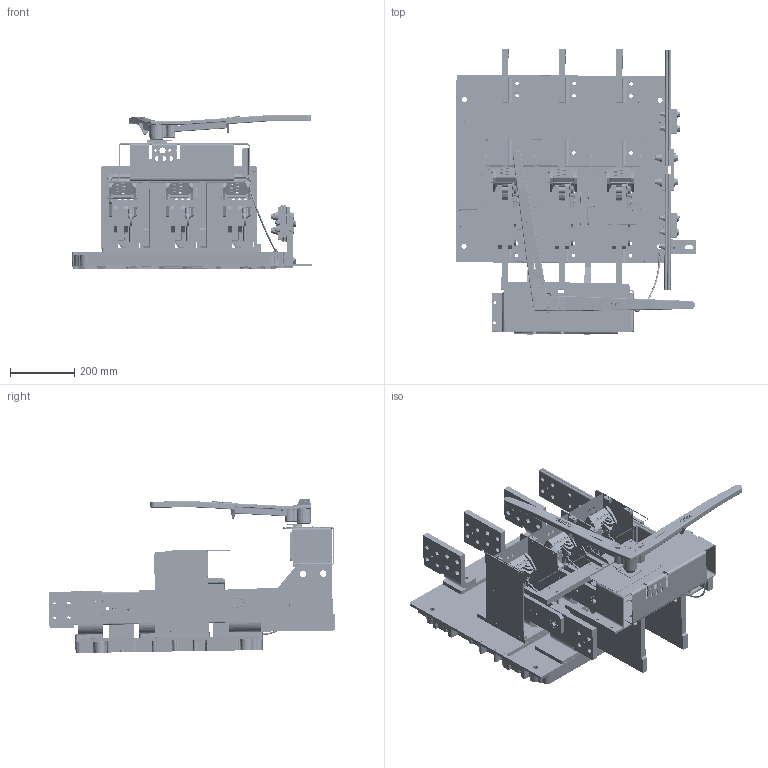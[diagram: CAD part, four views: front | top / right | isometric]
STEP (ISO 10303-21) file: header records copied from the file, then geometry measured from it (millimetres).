
FILE_DESCRIPTION(/* description */ (''),/* implementation_level */ '2;1');
FILE_NAME(/* name */ 'H:\switches\3d-templates\catalog-switches-iges-files\CATALOG-VLB4412N.stp',/* time_stamp */ '2022-03-14T14:17:52-05:00',/* author */ ('MKingston'),/* organization */ (''),/* preprocessor_version */ 'ST-DEVELOPER v18.1',/* originating_system */ 'Autodesk Inventor 2022',/* authorisation */ '');
FILE_SCHEMA (('AUTOMOTIVE_DESIGN { 1 0 10303 214 3 1 1 }'));
Products named in the file (77): vlb3412; 277-bf; 671-EBX; 671-CBX; 671-dbx; vlb-interpole-assy; vlb-interpole-right-side-assy; 256-b; 178-b; 178-c; 256-d; CATALOG-3000amp-blade-assy; 671-A; 671-B; 69-gc3; 67-fc3; 70-M; 67-j; ANSI/ASM B18.1.1 - 1/4 x 3/4; ANSI/ASM B18.1.1 - 3/16 x 11/16; 235-b; CATALOG-59-qd-arc-chute-assy; 50-ql; 50-qr; 59-qd-f; 363-a; 363-b; 59-QG; Bolted Connection; ANSI B18.6.3 - 8 - 32 x 3 1/2 SR HMS; ANSI B18.2.2 - 8 - 32, HMSNI; Bolted Connection_1; ANSI B18.6.3 - 8 - 32 x 1/2 SR HMS; Bolted Connection_2; ANSI B18.6.3 - 8 - 32 x 5/8 SR HMS; Bolted Connection_3; Bolted Connection_4; Unbrako - 1/4 x 1 1/2(2); 230-a; 246-f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
Assembly tree (157 placements, depth 4):
  vlb3412
    277-bf
    671-EBX  x3
    671-CBX  x3
    671-dbx  x3
    vlb-interpole-right-side-assy  x2
      256-b
      178-b
      178-c
    vlb-interpole-assy  x2
      256-b
      178-b
      178-c
    256-d
    CATALOG-3000amp-blade-assy  x3
      671-A
      671-B
      69-gc3
      67-fc3
      67-j
      70-M
      ANSI/ASM B18.1.1 - 1/4 x 3/4
      ANSI/ASM B18.1.1 - 3/16 x 11/16
    235-b
    CATALOG-59-qd-arc-chute-assy  x3
      50-ql
      50-qr
      59-qd-f
      363-a
      363-b
      59-QG
      Bolted Connection
        ANSI B18.6.3 - 8 - 32 x 3 1/2 SR HMS  x2
        ANSI B18.2.2 - 8 - 32, HMSNI  x2
      Bolted Connection_1
        ANSI B18.6.3 - 8 - 32 x 1/2 SR HMS  x2
      Bolted Connection_2
        ANSI B18.6.3 - 8 - 32 x 5/8 SR HMS  x2
      Bolted Connection_3
        Unbrako - 1/4 x 1 1/2(2)
      Bolted Connection_4
        Unbrako - 1/4 x 1 1/2(2)
    230-a
    246-f  x2
    820-bw1
    820-fw3
    221-RP,R3
    256-c
    3000-VLB-NEUTRAL-NO-GFI
      675-a  x2
      677-f  x2
      676-t  x4
      678-r
      675-gf  x2
      Bolted Connection_5
        ASTM F436 - 1/2, CW  x8
        ANSI B18.2.1 - 1/2-13 UNC - 2.5, HCSI  x4
        ASME B18.21.1 - 1/2, RHSLW  x4
        AS 2465 - 1/2  UNC  x4
      Bolted Connection_6
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Bounding box: 749.57 x 892.1 x 480.53 mm (x, y, z)
Volume: 23666421.6 mm3; surface area: 4916915.3 mm2
Topology: 207 solids, 209 shells, 5653 faces, 13959 edges, 9029 vertices
Faces by surface type: plane 2791, cylinder 1613, cone 964, bspline 148, torus 117, sphere 20
Full cylindrical faces by diameter (mm): 1.702 x8, 3.175 x4, 3.302 x32, 3.454 x4, 3.683 x8, 3.962 x4, 4.166 x20, 4.496 x24, 4.762 x49, 4.775 x8, 4.801 x8, 4.902 x14, 4.915 x24, 4.978 x9, 5.08 x2, 5.537 x2, 5.556 x3, 5.791 x6, 6.35 x22, 6.528 x51, 7.144 x18, 7.417 x1, 7.798 x11, 7.938 x6, 8.331 x2, 8.687 x2, 8.731 x2, 9.525 x15, 9.601 x2, 9.754 x1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
Entity records: 105310 total; most frequent: CARTESIAN_POINT 25924, DIRECTION 16264, ORIENTED_EDGE 15672, EDGE_CURVE 7847, AXIS2_PLACEMENT_3D 5966, VERTEX_POINT 5134, LINE 4332, VECTOR 4332
